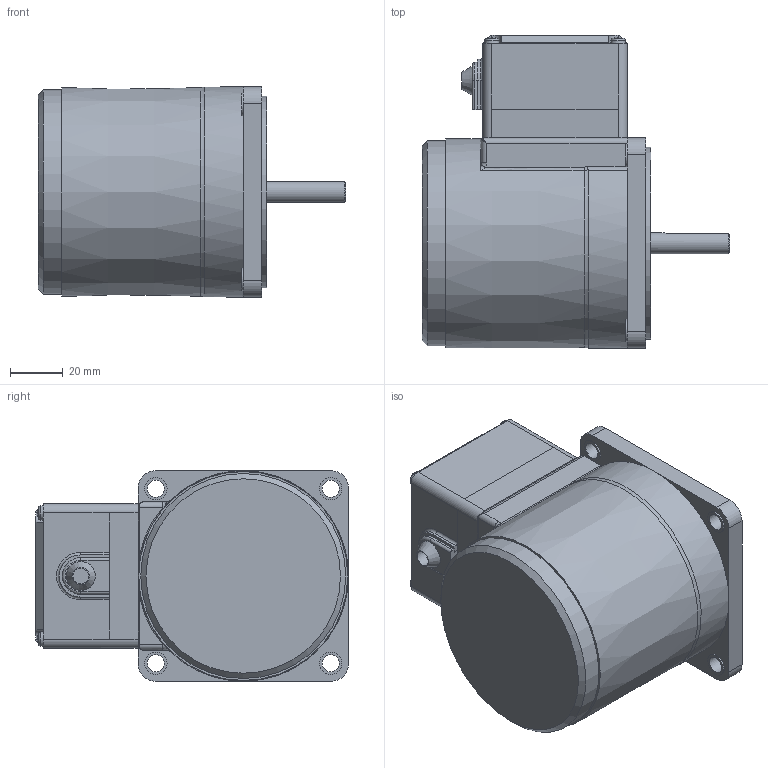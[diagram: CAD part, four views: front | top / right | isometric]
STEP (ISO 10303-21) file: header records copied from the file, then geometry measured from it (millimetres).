
FILE_DESCRIPTION(/* description */ (''),/* implementation_level */ '2;1');
FILE_NAME(/* name */ 'E:\도면작업\2016\0704) 미주향 SG 도면\3D MOTOR\TERMINAL BOX TYPE\INDUCTION TERMINAL BOX\SG8I25K_-T1.stp',/* time_stamp */ '2017-01-23T18:13:29+09:00',/* author */ ('jy-jung'),/* organization */ (''),/* preprocessor_version */ 'ST-DEVELOPER v15.6',/* originating_system */ 'Autodesk Inventor 2015',/* authorisation */ '');
FILE_SCHEMA (('AUTOMOTIVE_DESIGN { 1 0 10303 214 3 1 1 }'));
Length unit declared in the file: millimetre
Products named in the file (1): 부품4
Bounding box: 117 x 119 x 80 mm (x, y, z)
Volume: 556821.4 mm3; surface area: 46960 mm2
Topology: 1 solids, 2 shells, 261 faces, 679 edges, 434 vertices
Faces by surface type: plane 119, cylinder 55, cone 44, torus 24, bspline 15, sphere 4
Full cylindrical faces by diameter (mm): 6.5 x4, 8 x2, 8.5 x4, 34 x1, 73 x1, 78 x1
Entity records: 8740 total; most frequent: CARTESIAN_POINT 2391, ORIENTED_EDGE 1282, DIRECTION 1275, EDGE_CURVE 641, AXIS2_PLACEMENT_3D 496, VERTEX_POINT 427, EDGE_LOOP 312, LINE 283
